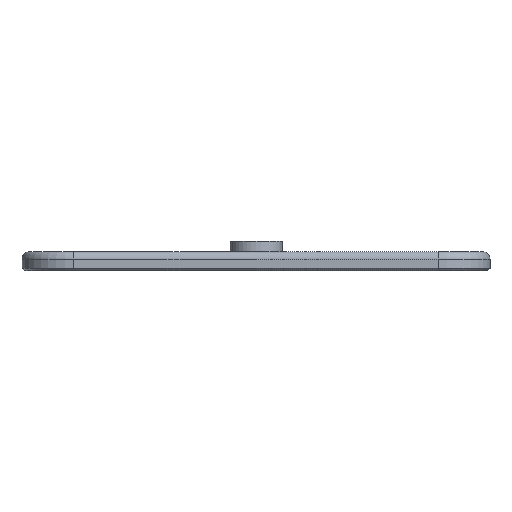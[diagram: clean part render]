
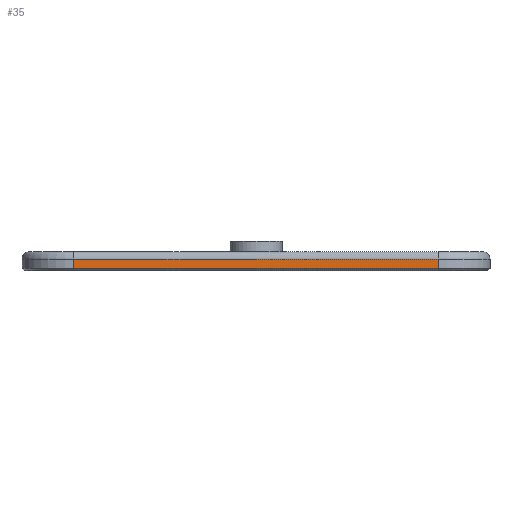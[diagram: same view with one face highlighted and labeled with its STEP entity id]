
A CAD part, left-side view. The second image highlights one B-rep face of the part: STEP entity #35.
In plain terms, the highlighted planar face has unit normal (-1, 0, 0).
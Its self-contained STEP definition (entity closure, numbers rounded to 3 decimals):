
#35 = ADVANCED_FACE('',(#36),#50,.T.);
#36 = FACE_BOUND('',#37,.T.);
#37 = EDGE_LOOP('',(#38,#73,#101,#129));
#38 = ORIENTED_EDGE('',*,*,#39,.T.);
#39 = EDGE_CURVE('',#40,#42,#44,.T.);
#40 = VERTEX_POINT('',#41);
#41 = CARTESIAN_POINT('',(-22.5,-17.5,0.2));
#42 = VERTEX_POINT('',#43);
#43 = CARTESIAN_POINT('',(-22.5,-17.5,1.1));
#44 = SURFACE_CURVE('',#45,(#49,#61),.PCURVE_S1.);
#45 = LINE('',#46,#47);
#46 = CARTESIAN_POINT('',(-22.5,-17.5,0.));
#47 = VECTOR('',#48,1.);
#48 = DIRECTION('',(0.,0.,1.));
#49 = PCURVE('',#50,#55);
#50 = PLANE('',#51);
#51 = AXIS2_PLACEMENT_3D('',#52,#53,#54);
#52 = CARTESIAN_POINT('',(-22.5,-17.5,0.));
#53 = DIRECTION('',(-1.,0.,0.));
#54 = DIRECTION('',(0.,1.,0.));
#55 = DEFINITIONAL_REPRESENTATION('',(#56),#60);
#56 = LINE('',#57,#58);
#57 = CARTESIAN_POINT('',(0.,0.));
#58 = VECTOR('',#59,1.);
#59 = DIRECTION('',(0.,-1.));
#60 = ( GEOMETRIC_REPRESENTATION_CONTEXT(2) 
PARAMETRIC_REPRESENTATION_CONTEXT() REPRESENTATION_CONTEXT('2D SPACE',''
  ) );
#61 = PCURVE('',#62,#67);
#62 = CYLINDRICAL_SURFACE('',#63,5.);
#63 = AXIS2_PLACEMENT_3D('',#64,#65,#66);
#64 = CARTESIAN_POINT('',(-17.5,-17.5,0.));
#65 = DIRECTION('',(-0.,-0.,-1.));
#66 = DIRECTION('',(1.,0.,0.));
#67 = DEFINITIONAL_REPRESENTATION('',(#68),#72);
#68 = LINE('',#69,#70);
#69 = CARTESIAN_POINT('',(-3.142,0.));
#70 = VECTOR('',#71,1.);
#71 = DIRECTION('',(-0.,-1.));
#72 = ( GEOMETRIC_REPRESENTATION_CONTEXT(2) 
PARAMETRIC_REPRESENTATION_CONTEXT() REPRESENTATION_CONTEXT('2D SPACE',''
  ) );
#73 = ORIENTED_EDGE('',*,*,#74,.T.);
#74 = EDGE_CURVE('',#42,#75,#77,.T.);
#75 = VERTEX_POINT('',#76);
#76 = CARTESIAN_POINT('',(-22.5,17.5,1.1));
#77 = SURFACE_CURVE('',#78,(#82,#89),.PCURVE_S1.);
#78 = LINE('',#79,#80);
#79 = CARTESIAN_POINT('',(-22.5,-17.5,1.1));
#80 = VECTOR('',#81,1.);
#81 = DIRECTION('',(0.,1.,0.));
#82 = PCURVE('',#50,#83);
#83 = DEFINITIONAL_REPRESENTATION('',(#84),#88);
#84 = LINE('',#85,#86);
#85 = CARTESIAN_POINT('',(0.,-1.1));
#86 = VECTOR('',#87,1.);
#87 = DIRECTION('',(1.,0.));
#88 = ( GEOMETRIC_REPRESENTATION_CONTEXT(2) 
PARAMETRIC_REPRESENTATION_CONTEXT() REPRESENTATION_CONTEXT('2D SPACE',''
  ) );
#89 = PCURVE('',#90,#95);
#90 = CYLINDRICAL_SURFACE('',#91,0.7);
#91 = AXIS2_PLACEMENT_3D('',#92,#93,#94);
#92 = CARTESIAN_POINT('',(-21.8,-17.5,1.1));
#93 = DIRECTION('',(0.,1.,0.));
#94 = DIRECTION('',(-1.,0.,0.));
#95 = DEFINITIONAL_REPRESENTATION('',(#96),#100);
#96 = LINE('',#97,#98);
#97 = CARTESIAN_POINT('',(0.,0.));
#98 = VECTOR('',#99,1.);
#99 = DIRECTION('',(0.,1.));
#100 = ( GEOMETRIC_REPRESENTATION_CONTEXT(2) 
PARAMETRIC_REPRESENTATION_CONTEXT() REPRESENTATION_CONTEXT('2D SPACE',''
  ) );
#101 = ORIENTED_EDGE('',*,*,#102,.F.);
#102 = EDGE_CURVE('',#103,#75,#105,.T.);
#103 = VERTEX_POINT('',#104);
#104 = CARTESIAN_POINT('',(-22.5,17.5,0.2));
#105 = SURFACE_CURVE('',#106,(#110,#117),.PCURVE_S1.);
#106 = LINE('',#107,#108);
#107 = CARTESIAN_POINT('',(-22.5,17.5,0.));
#108 = VECTOR('',#109,1.);
#109 = DIRECTION('',(0.,0.,1.));
#110 = PCURVE('',#50,#111);
#111 = DEFINITIONAL_REPRESENTATION('',(#112),#116);
#112 = LINE('',#113,#114);
#113 = CARTESIAN_POINT('',(35.,0.));
#114 = VECTOR('',#115,1.);
#115 = DIRECTION('',(0.,-1.));
#116 = ( GEOMETRIC_REPRESENTATION_CONTEXT(2) 
PARAMETRIC_REPRESENTATION_CONTEXT() REPRESENTATION_CONTEXT('2D SPACE',''
  ) );
#117 = PCURVE('',#118,#123);
#118 = CYLINDRICAL_SURFACE('',#119,5.);
#119 = AXIS2_PLACEMENT_3D('',#120,#121,#122);
#120 = CARTESIAN_POINT('',(-17.5,17.5,0.));
#121 = DIRECTION('',(-0.,-0.,-1.));
#122 = DIRECTION('',(1.,0.,0.));
#123 = DEFINITIONAL_REPRESENTATION('',(#124),#128);
#124 = LINE('',#125,#126);
#125 = CARTESIAN_POINT('',(-3.142,0.));
#126 = VECTOR('',#127,1.);
#127 = DIRECTION('',(-0.,-1.));
#128 = ( GEOMETRIC_REPRESENTATION_CONTEXT(2) 
PARAMETRIC_REPRESENTATION_CONTEXT() REPRESENTATION_CONTEXT('2D SPACE',''
  ) );
#129 = ORIENTED_EDGE('',*,*,#130,.F.);
#130 = EDGE_CURVE('',#40,#103,#131,.T.);
#131 = SURFACE_CURVE('',#132,(#136,#143),.PCURVE_S1.);
#132 = LINE('',#133,#134);
#133 = CARTESIAN_POINT('',(-22.5,-17.5,0.2));
#134 = VECTOR('',#135,1.);
#135 = DIRECTION('',(0.,1.,0.));
#136 = PCURVE('',#50,#137);
#137 = DEFINITIONAL_REPRESENTATION('',(#138),#142);
#138 = LINE('',#139,#140);
#139 = CARTESIAN_POINT('',(0.,-0.2));
#140 = VECTOR('',#141,1.);
#141 = DIRECTION('',(1.,0.));
#142 = ( GEOMETRIC_REPRESENTATION_CONTEXT(2) 
PARAMETRIC_REPRESENTATION_CONTEXT() REPRESENTATION_CONTEXT('2D SPACE',''
  ) );
#143 = PCURVE('',#144,#149);
#144 = PLANE('',#145);
#145 = AXIS2_PLACEMENT_3D('',#146,#147,#148);
#146 = CARTESIAN_POINT('',(-22.4,-17.5,0.1));
#147 = DIRECTION('',(0.707,0.,0.707)
  );
#148 = DIRECTION('',(0.,-1.,0.));
#149 = DEFINITIONAL_REPRESENTATION('',(#150),#154);
#150 = LINE('',#151,#152);
#151 = CARTESIAN_POINT('',(-0.,-0.141));
#152 = VECTOR('',#153,1.);
#153 = DIRECTION('',(-1.,0.));
#154 = ( GEOMETRIC_REPRESENTATION_CONTEXT(2) 
PARAMETRIC_REPRESENTATION_CONTEXT() REPRESENTATION_CONTEXT('2D SPACE',''
  ) );
